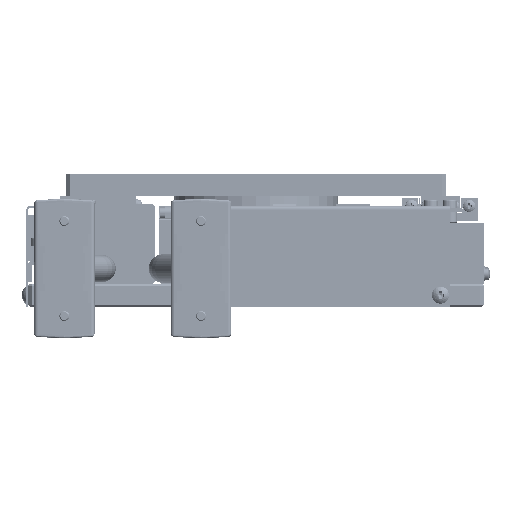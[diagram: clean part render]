
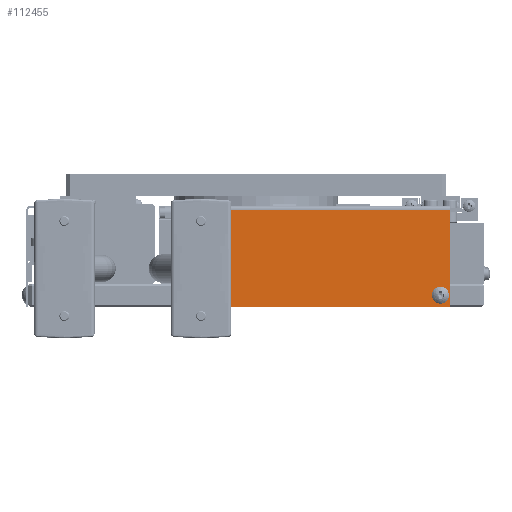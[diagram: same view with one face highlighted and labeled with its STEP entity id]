
A CAD part, left-side view. The second image highlights one B-rep face of the part: STEP entity #112455.
In plain terms, the highlighted planar face has unit normal (-1, 0, 0).
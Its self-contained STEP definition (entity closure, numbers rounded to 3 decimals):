
#3661 = EDGE_CURVE ( 'NONE', #4697, #63872, #103175, .T. ) ;
#3996 = FACE_BOUND ( 'NONE', #147382, .T. ) ;
#4577 = LINE ( 'NONE', #98344, #133908 ) ;
#4697 = VERTEX_POINT ( 'NONE', #136243 ) ;
#10948 = ORIENTED_EDGE ( 'NONE', *, *, #20239, .F. ) ;
#11916 = VERTEX_POINT ( 'NONE', #132531 ) ;
#13904 = CARTESIAN_POINT ( 'NONE',  ( -60.5, 17.5, -32. ) ) ;
#17357 = CARTESIAN_POINT ( 'NONE',  ( -60.5, -48.5, -32. ) ) ;
#20239 = EDGE_CURVE ( 'NONE', #116265, #86089, #100551, .T. ) ;
#26468 = DIRECTION ( 'NONE',  ( 0., 1., 0. ) ) ;
#27178 = EDGE_CURVE ( 'NONE', #63872, #97518, #4577, .T. ) ;
#27559 = ORIENTED_EDGE ( 'NONE', *, *, #99579, .F. ) ;
#29865 = DIRECTION ( 'NONE',  ( 0., 1., 0. ) ) ;
#33383 = FACE_BOUND ( 'NONE', #67405, .T. ) ;
#37540 = AXIS2_PLACEMENT_3D ( 'NONE', #59032, #159266, #84271 ) ;
#38309 = ORIENTED_EDGE ( 'NONE', *, *, #100093, .T. ) ;
#39016 = FACE_OUTER_BOUND ( 'NONE', #105027, .T. ) ;
#40801 = ORIENTED_EDGE ( 'NONE', *, *, #90656, .F. ) ;
#40954 = CARTESIAN_POINT ( 'NONE',  ( -60.5, 15.274, -32.326 ) ) ;
#43423 = EDGE_CURVE ( 'NONE', #11916, #4697, #145473, .T. ) ;
#44415 = LINE ( 'NONE', #63944, #69771 ) ;
#46206 = AXIS2_PLACEMENT_3D ( 'NONE', #127120, #52083, #139678 ) ;
#48450 = DIRECTION ( 'NONE',  ( 0., 0., 1. ) ) ;
#52083 = DIRECTION ( 'NONE',  ( -1., 0., 0. ) ) ;
#55084 = CARTESIAN_POINT ( 'NONE',  ( -60.5, -50.746, -32.139 ) ) ;
#58709 = ORIENTED_EDGE ( 'NONE', *, *, #43423, .T. ) ;
#59032 = CARTESIAN_POINT ( 'NONE',  ( -60.5, 20., -9. ) ) ;
#59891 = CARTESIAN_POINT ( 'NONE',  ( -60.5, 17.5, -32. ) ) ;
#59923 = EDGE_CURVE ( 'NONE', #126340, #105935, #107752, .T. ) ;
#63872 = VERTEX_POINT ( 'NONE', #129939 ) ;
#63944 = CARTESIAN_POINT ( 'NONE',  ( -60.5, -51., -9.5 ) ) ;
#67405 = EDGE_LOOP ( 'NONE', ( #27559, #97919 ) ) ;
#69109 = ORIENTED_EDGE ( 'NONE', *, *, #27178, .T. ) ;
#69771 = VECTOR ( 'NONE', #139053, 1000. ) ;
#72449 = DIRECTION ( 'NONE',  ( 0., 1., 0. ) ) ;
#72665 = DIRECTION ( 'NONE',  ( 0., -1., 0. ) ) ;
#84000 = ORIENTED_EDGE ( 'NONE', *, *, #3661, .T. ) ;
#84271 = DIRECTION ( 'NONE',  ( 0., 1., 0. ) ) ;
#85851 = AXIS2_PLACEMENT_3D ( 'NONE', #17357, #104991, #29865 ) ;
#86089 = VERTEX_POINT ( 'NONE', #55084 ) ;
#88411 = AXIS2_PLACEMENT_3D ( 'NONE', #13904, #101501, #26468 ) ;
#90656 = EDGE_CURVE ( 'NONE', #86089, #116265, #109505, .T. ) ;
#96383 = PLANE ( 'NONE',  #37540 ) ;
#97518 = VERTEX_POINT ( 'NONE', #122303 ) ;
#97632 = AXIS2_PLACEMENT_3D ( 'NONE', #59891, #147557, #72449 ) ;
#97919 = ORIENTED_EDGE ( 'NONE', *, *, #59923, .F. ) ;
#98344 = CARTESIAN_POINT ( 'NONE',  ( -60.5, -51., -35. ) ) ;
#99579 = EDGE_CURVE ( 'NONE', #105935, #126340, #132739, .T. ) ;
#100093 = EDGE_CURVE ( 'NONE', #97518, #11916, #44415, .T. ) ;
#100551 = CIRCLE ( 'NONE', #85851, 2.25 ) ;
#101501 = DIRECTION ( 'NONE',  ( -1., 0., 0. ) ) ;
#103175 = LINE ( 'NONE', #123705, #132498 ) ;
#104991 = DIRECTION ( 'NONE',  ( -1., 0., 0. ) ) ;
#105027 = EDGE_LOOP ( 'NONE', ( #38309, #58709, #84000, #69109 ) ) ;
#105935 = VERTEX_POINT ( 'NONE', #40954 ) ;
#107752 = CIRCLE ( 'NONE', #97632, 2.25 ) ;
#109505 = CIRCLE ( 'NONE', #46206, 2.25 ) ;
#112223 = VECTOR ( 'NONE', #123632, 1000. ) ;
#112455 = ADVANCED_FACE ( 'NONE', ( #33383, #3996, #39016 ), #96383, .F. ) ;
#116111 = CARTESIAN_POINT ( 'NONE',  ( -60.5, -46.254, -31.861 ) ) ;
#116265 = VERTEX_POINT ( 'NONE', #116111 ) ;
#122303 = CARTESIAN_POINT ( 'NONE',  ( -60.5, -51., -9.5 ) ) ;
#123632 = DIRECTION ( 'NONE',  ( 0., 0., -1. ) ) ;
#123705 = CARTESIAN_POINT ( 'NONE',  ( -60.5, 20., -35. ) ) ;
#126340 = VERTEX_POINT ( 'NONE', #132550 ) ;
#127120 = CARTESIAN_POINT ( 'NONE',  ( -60.5, -48.5, -32. ) ) ;
#129939 = CARTESIAN_POINT ( 'NONE',  ( -60.5, -51., -35. ) ) ;
#132498 = VECTOR ( 'NONE', #72665, 1000. ) ;
#132531 = CARTESIAN_POINT ( 'NONE',  ( -60.5, 20., -9.5 ) ) ;
#132550 = CARTESIAN_POINT ( 'NONE',  ( -60.5, 19.726, -31.674 ) ) ;
#132739 = CIRCLE ( 'NONE', #88411, 2.25 ) ;
#133908 = VECTOR ( 'NONE', #48450, 1000. ) ;
#136243 = CARTESIAN_POINT ( 'NONE',  ( -60.5, 20., -35. ) ) ;
#139053 = DIRECTION ( 'NONE',  ( 0., 1., 0. ) ) ;
#139678 = DIRECTION ( 'NONE',  ( 0., 1., 0. ) ) ;
#145473 = LINE ( 'NONE', #160805, #112223 ) ;
#147382 = EDGE_LOOP ( 'NONE', ( #40801, #10948 ) ) ;
#147557 = DIRECTION ( 'NONE',  ( -1., 0., 0. ) ) ;
#159266 = DIRECTION ( 'NONE',  ( 1., 0., 0. ) ) ;
#160805 = CARTESIAN_POINT ( 'NONE',  ( -60.5, 20., -35. ) ) ;
